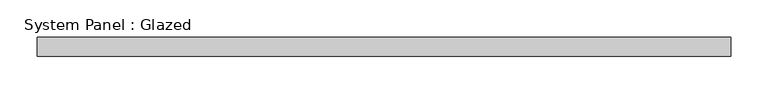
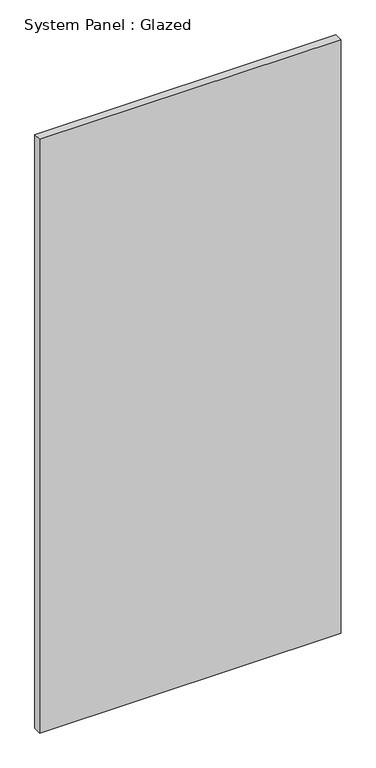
"""IFC4 building model written with IfcOpenShell, lengths in millimetres: plate geometry, System Panel : Glazed."""

from ifc_helpers import new_model, si_unit, origin, origin_with_axes, place, context, project, spatial, polyline, outline, extrude, source, transform, mapped, element, save


def system_panel_glazed_92d57a36(model_context):
    return source(origin(), model_context, "Body", "SweptSolid", [
        extrude(outline(polyline([(462.5, 24.5), (-462.5, 24.5), (-462.5, 49.5), (462.5, 49.5), (462.5, 24.5)])), origin_with_axes(), (0.0, 0.0, 1.0), 1925.0),
    ])


if __name__ == "__main__":
    model = new_model("IFC4")
    model_context = context("Model", 3, world=origin())
    ifc_project = project(units=[si_unit("LENGTHUNIT", "METRE", prefix="MILLI")], contexts=[model_context])
    site = spatial("IfcSite", under=ifc_project)
    building = spatial("IfcBuilding", under=site)
    placement = place(None, origin())
    system_panel_glazed_shape = system_panel_glazed_92d57a36(model_context)
    element("IfcPlate", 1, ObjectType="System Panel : Glazed", at=placement, inside=building, context=model_context, shape_type="MappedRepresentation", body=[
        mapped(system_panel_glazed_shape, transform((0.0, 0.0, 0.0), x_axis=(1.0, 0.0, 0.0), y_axis=(0.0, 1.0, 0.0), z_axis=(0.0, 0.0, 1.0))),
    ])
    save(model, "model.ifc")
